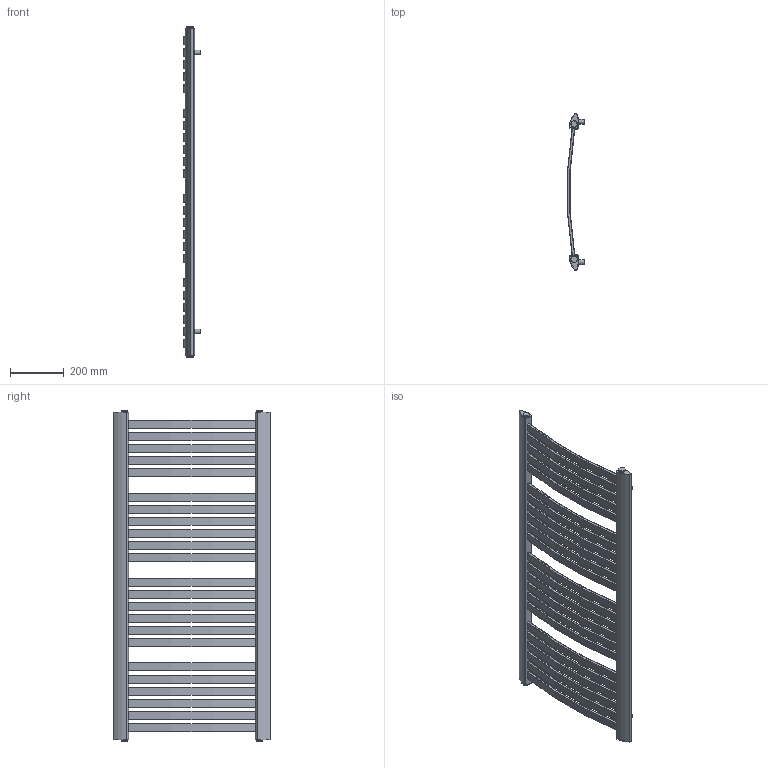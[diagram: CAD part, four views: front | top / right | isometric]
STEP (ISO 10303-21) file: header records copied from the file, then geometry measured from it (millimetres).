
FILE_DESCRIPTION(/* description */ (''),/* implementation_level */ '2;1');
FILE_NAME(/* name */ 'C:\Grzejniki\13DLUXRAD\łazienkowe\KASTOR\KASTOR 1216x580.iam.stp',/* time_stamp */ '2016-06-28T17:35:00+02:00',/* author */ ('m.szydziak'),/* organization */ (''),/* preprocessor_version */ 'ST-DEVELOPER v16.5',/* originating_system */ 'Autodesk Inventor 2017',/* authorisation */ '');
FILE_SCHEMA (('AUTOMOTIVE_DESIGN { 1 0 10303 214 3 1 1 }'));
Length unit declared in the file: millimetre
Products named in the file (6): KASTOR 1216x580; 30x10x1x484; 56x34x1,2x1215; zaślepka 56x34 G0,5inch; uchwyt stały; korek
Assembly tree (37 placements, depth 2):
  KASTOR 1216x580
    30x10x1x484  x23
    56x34x1,2x1215  x2
    zaślepka 56x34 G0,5inch  x4
    uchwyt stały  x4
    korek  x4
Bounding box: 63.33 x 582.61 x 1227 mm (x, y, z)
Volume: 1283593.9 mm3; surface area: 2415966.3 mm2
Topology: 37 solids, 37 shells, 1106 faces, 2916 edges, 1884 vertices
Faces by surface type: plane 774, cylinder 332
Full cylindrical faces by diameter (mm): 15 x4, 18 x4, 18.631 x4, 24 x4
Entity records: 8762 total; most frequent: DIRECTION 1548, CARTESIAN_POINT 1483, ORIENTED_EDGE 1426, EDGE_CURVE 713, AXIS2_PLACEMENT_3D 540, VERTEX_POINT 475, LINE 468, VECTOR 468
